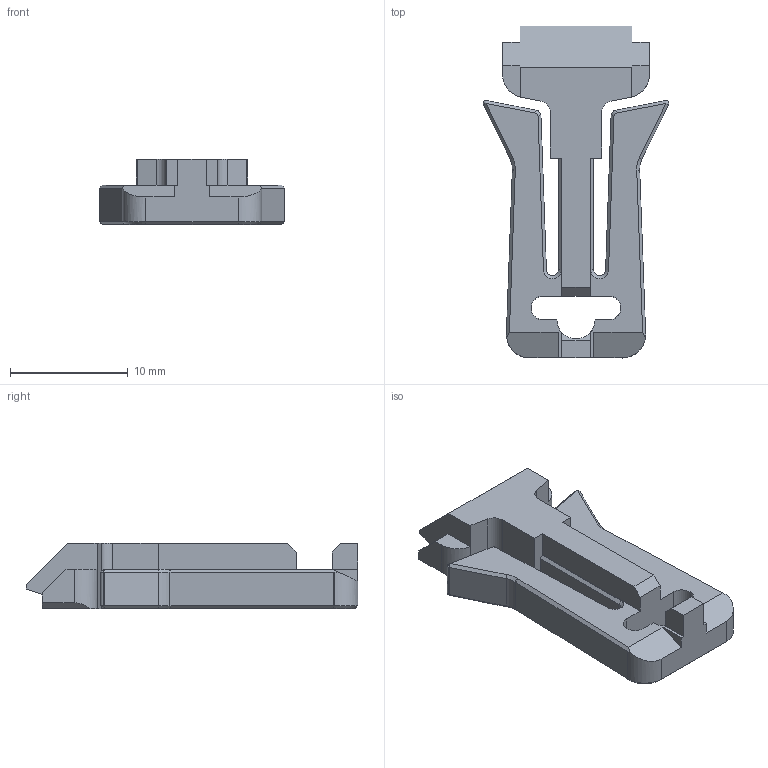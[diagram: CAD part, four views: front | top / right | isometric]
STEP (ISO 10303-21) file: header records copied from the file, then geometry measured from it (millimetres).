
FILE_DESCRIPTION (( 'STEP AP214' ), '1' );
FILE_NAME ('Latch.STEP', '2024-05-13T21:04:20', ( '' ), ( '' ), 'SwSTEP 2.0', 'SolidWorks 2020', '' );
FILE_SCHEMA (( 'AUTOMOTIVE_DESIGN' ));
Length unit declared in the file: millimetre
Products named in the file (1): Latch
Bounding box: 15.81 x 28.25 x 5.55 mm (x, y, z)
Volume: 988.9 mm3; surface area: 1294.3 mm2
Topology: 1 solids, 1 shells, 208 faces, 546 edges, 342 vertices
Faces by surface type: plane 128, cone 30, bspline 26, cylinder 24
Entity records: 7646 total; most frequent: CARTESIAN_POINT 2689, ORIENTED_EDGE 1080, DIRECTION 918, EDGE_CURVE 540, LINE 400, VECTOR 400, VERTEX_POINT 342, AXIS2_PLACEMENT_3D 259
